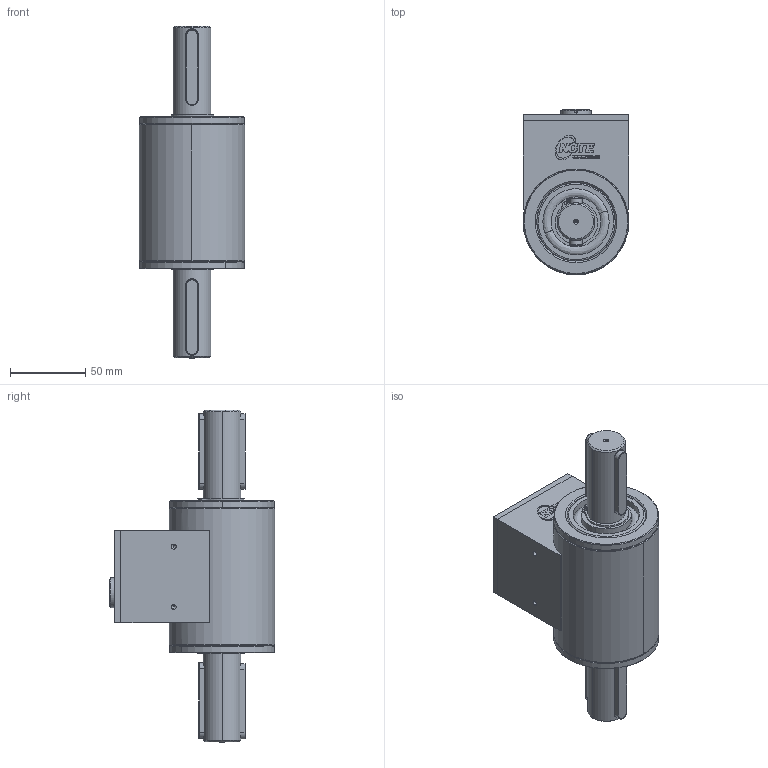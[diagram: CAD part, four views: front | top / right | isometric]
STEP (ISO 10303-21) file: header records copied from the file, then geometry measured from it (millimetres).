
FILE_DESCRIPTION (( 'STEP AP214' ), '1' );
FILE_NAME ('400007-ATS017_Sensor_Mb_250-500Nm_Rund_ohne_WS_IP65.STEP', '2016-11-29T09:57:23', ( '' ), ( '' ), 'SwSTEP 2.0', 'SolidWorks 2016', '' );
FILE_SCHEMA (( 'AUTOMOTIVE_DESIGN' ));
Length unit declared in the file: millimetre
Products named in the file (15): 400007-ATM013_Lagerdeckel_Mb-250-500Nm; Parallel key A8 x 7 x 50 DIN 6885_Parallel key A8 x 7 x 50 DIN 6885; 999999-ATE072_Folientaster beleuchtet_Standard; 999999-ATM007-Tellerfeder_k_vorgespannt51,5x35,5_Standard; 400007-ATS017_Sensor_Mb_250-500Nm_Rund_ohne_WS_IP65; 400007-ATM019_Deckel_Elektronikgehäuse_Mb_250-500Nm; DIN 7991 - M4 x 10 --- 10S_DIN 7991 - M4 x 10 --- 10S; Seegering DIN 471_Circlip DIN 471 - 25 x 1.2; DIN 7991 - M3 x 10 --- 10S_DIN 7991 - M3 x 10 --- 10S; Passscheibe DIN 988_DIN 988-42x52x1; 400007-ATM016_Elektronikgehaeuse_Mb_250-500Nm; 999999-ATE042_Buchse-09-0132-90-12_12Pol_Standard; 400007-ATM010_Rohrgehaeuse_Mb-250-500Nm; DIN 625 - 6205 - 12,SI,NC,12_68_DIN 625 - 6205 - 12,SI,NC,12_68; 400007-ATM003_Welle25mm_Mb_250-500Nm
Assembly tree (25 placements, depth 2):
  400007-ATS017_Sensor_Mb_250-500Nm_Rund_ohne_WS_IP65
    400007-ATM003_Welle25mm_Mb_250-500Nm
    400007-ATM010_Rohrgehaeuse_Mb-250-500Nm
    400007-ATM013_Lagerdeckel_Mb-250-500Nm  x2
    400007-ATM016_Elektronikgehaeuse_Mb_250-500Nm
    DIN 7991 - M4 x 10 --- 10S_DIN 7991 - M4 x 10 --- 10S  x2
    DIN 7991 - M3 x 10 --- 10S_DIN 7991 - M3 x 10 --- 10S  x4
    999999-ATE072_Folientaster beleuchtet_Standard
    999999-ATE042_Buchse-09-0132-90-12_12Pol_Standard
    DIN 625 - 6205 - 12,SI,NC,12_68_DIN 625 - 6205 - 12,SI,NC,12_68  x2
    400007-ATM019_Deckel_Elektronikgehäuse_Mb_250-500Nm
    Passscheibe DIN 988_DIN 988-42x52x1  x2
    Seegering DIN 471_Circlip DIN 471 - 25 x 1.2  x2
    Parallel key A8 x 7 x 50 DIN 6885_Parallel key A8 x 7 x 50 DIN 6885  x4
    999999-ATM007-Tellerfeder_k_vorgespannt51,5x35,5_Standard
Bounding box: 70 x 109.8 x 220 mm (x, y, z)
Surface area: 161415.5 mm2 (no closed solid volume)
Topology: 0 solids, 25 shells, 1578 faces, 3671 edges, 2194 vertices
Faces by surface type: cylinder 516, cone 498, plane 389, bspline 171, torus 4
Entity records: 33514 total; most frequent: CARTESIAN_POINT 10025, DIRECTION 4719, ORIENTED_EDGE 4718, EDGE_CURVE 2359, AXIS2_PLACEMENT_3D 1749, VERTEX_POINT 1479, LINE 1221, VECTOR 1221
